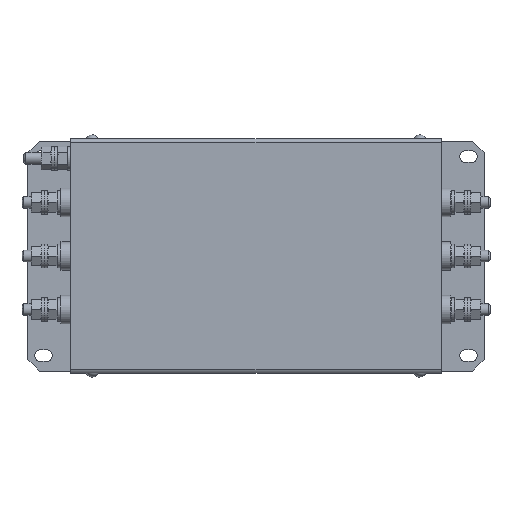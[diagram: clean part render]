
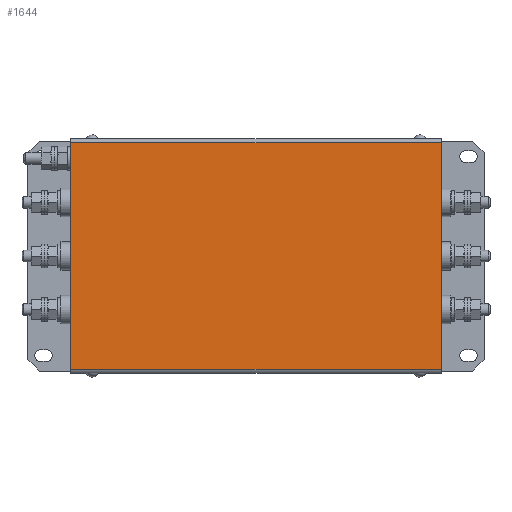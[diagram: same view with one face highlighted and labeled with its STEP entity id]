
A CAD part, top view. The second image highlights one B-rep face of the part: STEP entity #1644.
In plain terms, the highlighted planar face has unit normal (0, 0, 1).
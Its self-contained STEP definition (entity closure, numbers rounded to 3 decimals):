
#1644=ADVANCED_FACE('',(#3101),#3103,.T.);
#3101=FACE_BOUND('',#3102,.T.);
#3102=EDGE_LOOP('',(#4590,#4591,#4592,#4593));
#3103=PLANE('',#3104);
#3104=AXIS2_PLACEMENT_3D('',#3105,#3106,#3107);
#3105=CARTESIAN_POINT('',(0.,0.,1.));
#3106=DIRECTION('',(0.,0.,1.));
#3107=DIRECTION('',(1.,0.,0.));
#4590=ORIENTED_EDGE('',*,*,#5164,.T.);
#4591=ORIENTED_EDGE('',*,*,#5180,.T.);
#4592=ORIENTED_EDGE('',*,*,#5174,.T.);
#4593=ORIENTED_EDGE('',*,*,#5181,.T.);
#5164=EDGE_CURVE('',#5711,#5709,#5712,.T.);
#5174=EDGE_CURVE('',#5725,#5723,#5726,.T.);
#5180=EDGE_CURVE('',#5709,#5725,#5732,.T.);
#5181=EDGE_CURVE('',#5723,#5711,#5733,.T.);
#5709=VERTEX_POINT('',#6895);
#5711=VERTEX_POINT('',#6900);
#5712=LINE('',#6901,#6902);
#5723=VERTEX_POINT('',#6933);
#5725=VERTEX_POINT('',#6938);
#5726=LINE('',#6939,#6940);
#5732=LINE('',#6958,#6959);
#5733=LINE('',#6961,#6962);
#6895=CARTESIAN_POINT('',(95.,-58.,1.));
#6900=CARTESIAN_POINT('',(-95.,-58.,1.));
#6901=CARTESIAN_POINT('',(-95.,-58.,1.));
#6902=VECTOR('',#6903,1.);
#6903=DIRECTION('',(1.,0.,0.));
#6933=CARTESIAN_POINT('',(-95.,58.,1.));
#6938=CARTESIAN_POINT('',(95.,58.,1.));
#6939=CARTESIAN_POINT('',(95.,58.,1.));
#6940=VECTOR('',#6941,1.);
#6941=DIRECTION('',(-1.,0.,0.));
#6958=CARTESIAN_POINT('',(95.,-58.,1.));
#6959=VECTOR('',#6960,1.);
#6960=DIRECTION('',(0.,1.,0.));
#6961=CARTESIAN_POINT('',(-95.,58.,1.));
#6962=VECTOR('',#6963,1.);
#6963=DIRECTION('',(0.,-1.,0.));
